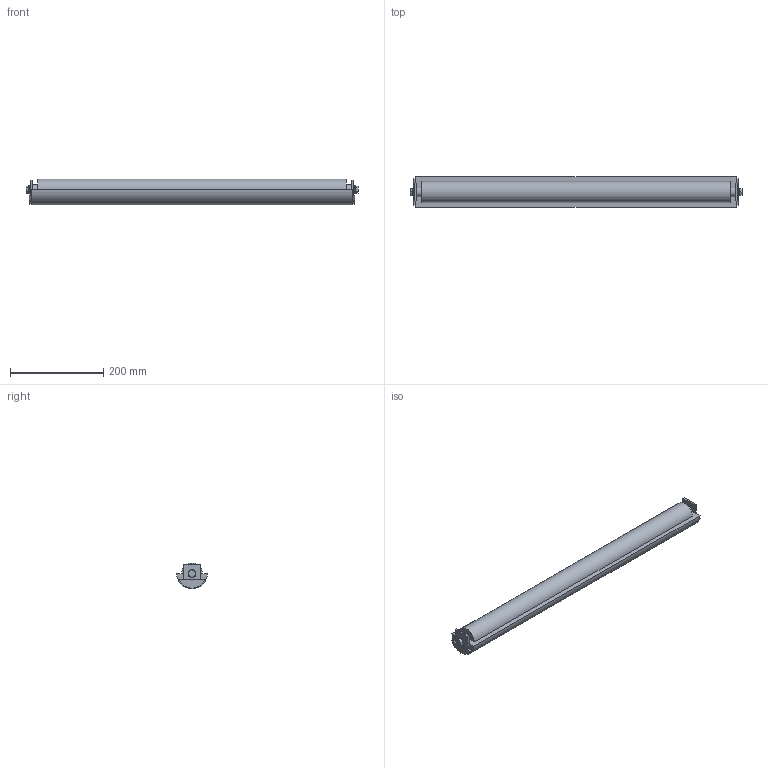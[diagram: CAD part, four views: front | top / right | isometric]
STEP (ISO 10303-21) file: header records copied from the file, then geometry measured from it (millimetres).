
FILE_DESCRIPTION (( 'STEP AP214' ), '1' );
FILE_NAME ('03.102I01.700.N FS-700-MTS2-100.INOX Idler section.STEP', '2025-02-11T11:29:32', ( '' ), ( '' ), 'SwSTEP 2.0', 'SolidWorks 2024', '' );
FILE_SCHEMA (( 'AUTOMOTIVE_DESIGN' ));
Length unit declared in the file: millimetre
Products named in the file (1): 03.102I01.700.N FS-700-MTS2-100.INOX Idler section
Bounding box: 710.8 x 65.4 x 55.2 mm (x, y, z)
Volume: 1698190.6 mm3; surface area: 144985.2 mm2
Topology: 1 solids, 1 shells, 64 faces, 164 edges, 108 vertices
Faces by surface type: plane 40, cylinder 24
Entity records: 1967 total; most frequent: DIRECTION 342, CARTESIAN_POINT 337, ORIENTED_EDGE 328, EDGE_CURVE 164, VECTOR 116, LINE 116, AXIS2_PLACEMENT_3D 113, VERTEX_POINT 108
